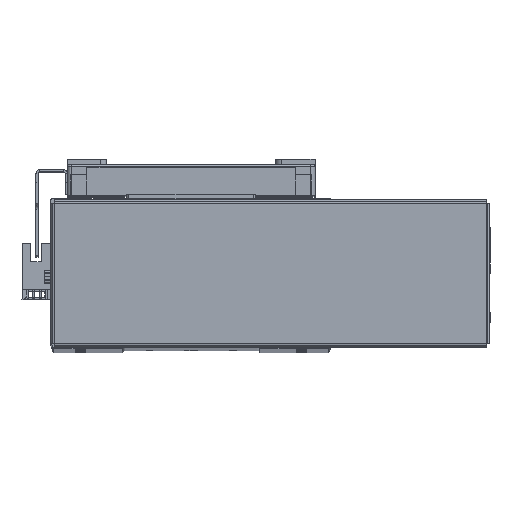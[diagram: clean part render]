
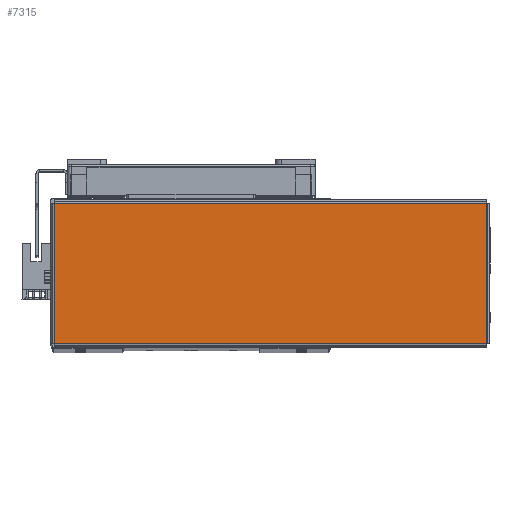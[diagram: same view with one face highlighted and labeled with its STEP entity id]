
A CAD part, top view. The second image highlights one B-rep face of the part: STEP entity #7315.
In plain terms, the highlighted planar face has unit normal (0, 0, 1) as drawn and (0, -1, 0) by its records, which use the part's own axes.
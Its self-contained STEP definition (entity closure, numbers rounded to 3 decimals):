
#3243 = VERTEX_POINT ( 'NONE', #41498 ) ;
#3316 = VERTEX_POINT ( 'NONE', #41605 ) ;
#3333 = VERTEX_POINT ( 'NONE', #41578 ) ;
#3356 = VERTEX_POINT ( 'NONE', #41700 ) ;
#7315 = ADVANCED_FACE ( 'NONE', ( #58966 ), #18204, .F. ) ;
#13205 = EDGE_LOOP ( 'NONE', ( #28144, #28216, #28195, #28214 ) ) ;
#16425 = VECTOR ( 'NONE', #17495, 1000. ) ;
#16483 = LINE ( 'NONE', #17517, #16425 ) ;
#16496 = LINE ( 'NONE', #17506, #16503 ) ;
#16503 = VECTOR ( 'NONE', #17488, 1000. ) ;
#16509 = LINE ( 'NONE', #17558, #16522 ) ;
#16522 = VECTOR ( 'NONE', #17570, 1000. ) ;
#16562 = VECTOR ( 'NONE', #17594, 1000. ) ;
#16581 = LINE ( 'NONE', #17593, #16562 ) ;
#17488 = DIRECTION ( 'NONE',  ( 0., 0., 1. ) ) ;
#17495 = DIRECTION ( 'NONE',  ( -1., 0., 0. ) ) ;
#17506 = CARTESIAN_POINT ( 'NONE',  ( 103.763, -1., -33.793 ) ) ;
#17517 = CARTESIAN_POINT ( 'NONE',  ( 103.793, -1., 33.763 ) ) ;
#17558 = CARTESIAN_POINT ( 'NONE',  ( -103.793, -1., -33.763 ) ) ;
#17570 = DIRECTION ( 'NONE',  ( 1., 0., 0. ) ) ;
#17593 = CARTESIAN_POINT ( 'NONE',  ( -103.763, -1., 33.793 ) ) ;
#17594 = DIRECTION ( 'NONE',  ( 0., 0., -1. ) ) ;
#18197 = DIRECTION ( 'NONE',  ( 0., 0., 1. ) ) ;
#18204 = PLANE ( 'NONE',  #61339 ) ;
#18228 = CARTESIAN_POINT ( 'NONE',  ( 0., -1., 0. ) ) ;
#18246 = DIRECTION ( 'NONE',  ( 0., 1., 0. ) ) ;
#20764 = EDGE_CURVE ( 'NONE', #3356, #3316, #16483, .T. ) ;
#20792 = EDGE_CURVE ( 'NONE', #3333, #3356, #16496, .T. ) ;
#20829 = EDGE_CURVE ( 'NONE', #3243, #3333, #16509, .T. ) ;
#20880 = EDGE_CURVE ( 'NONE', #3316, #3243, #16581, .T. ) ;
#28144 = ORIENTED_EDGE ( 'NONE', *, *, #20764, .T. ) ;
#28195 = ORIENTED_EDGE ( 'NONE', *, *, #20829, .T. ) ;
#28214 = ORIENTED_EDGE ( 'NONE', *, *, #20792, .T. ) ;
#28216 = ORIENTED_EDGE ( 'NONE', *, *, #20880, .T. ) ;
#41498 = CARTESIAN_POINT ( 'NONE',  ( -103.763, -1., -33.763 ) ) ;
#41578 = CARTESIAN_POINT ( 'NONE',  ( 103.763, -1., -33.763 ) ) ;
#41605 = CARTESIAN_POINT ( 'NONE',  ( -103.763, -1., 33.763 ) ) ;
#41700 = CARTESIAN_POINT ( 'NONE',  ( 103.763, -1., 33.763 ) ) ;
#58966 = FACE_OUTER_BOUND ( 'NONE', #13205, .T. ) ;
#61339 = AXIS2_PLACEMENT_3D ( 'NONE', #18228, #18246, #18197 ) ;
